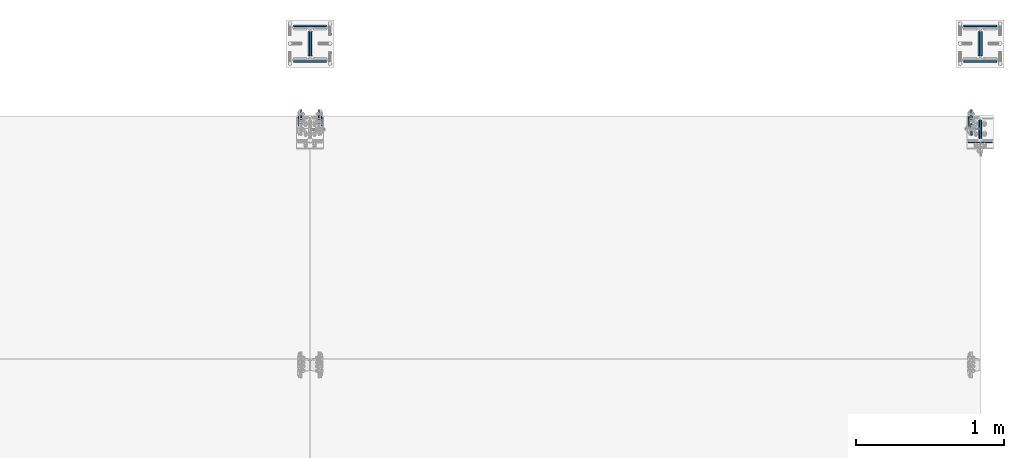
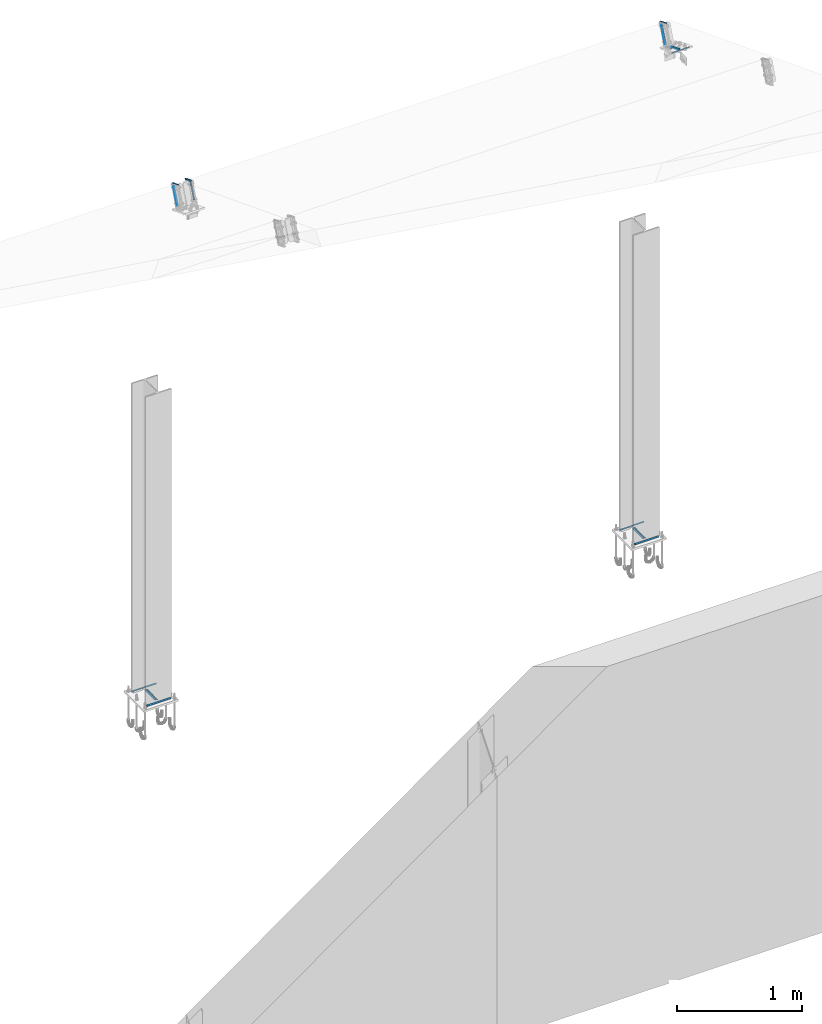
# One storey, part 20 of 72: 34 fasteners.
"""IFC4 building model written with IfcOpenShell, lengths in metres."""

from ifc_helpers import new_model, si_unit, frame, origin_with_axes, place, context, project, spatial, polyline, outline, extrude, type_object, element, save


model = new_model("IFC4")

# Units and contexts
model_context = context("Model", 3, precision=1e-05, world=origin_with_axes())
ifc_project = project(units=[si_unit("LENGTHUNIT", "METRE"), si_unit("AREAUNIT", "SQUARE_METRE"), si_unit("VOLUMEUNIT", "CUBIC_METRE"), si_unit("MASSUNIT", "GRAM", prefix="KILO"), si_unit("TIMEUNIT", "SECOND"), si_unit("PLANEANGLEUNIT", "RADIAN"), si_unit("SOLIDANGLEUNIT", "STERADIAN"), si_unit("THERMODYNAMICTEMPERATUREUNIT", "DEGREE_CELSIUS")], contexts=[model_context])

# Site, building, storey
placement_1 = place(None, origin_with_axes())
site = spatial("IfcSite", under=ifc_project, at=placement_1, Name="Italia", CompositionType="ELEMENT")
building = spatial("IfcBuilding", under=site, at=placement_1, Name="Uffici", CompositionType="ELEMENT")
storey = spatial("IfcBuildingStorey", under=building, at=placement_1, Name="Storey 0", CompositionType="ELEMENT", Elevation=0.0)

# Fasteners
fastener_type_1 = type_object("IfcFastenerType", Name="Collegamenti 0001_0101 0002_0102 0003_0103 0004_0104 0005_0105 0011_0111 0012_0112 0013_0113 0014_0114 0015_0115", PredefinedType="WELD")
placement_2 = place(placement_1, origin_with_axes())
fastener_1_placement = place(placement_2, origin_with_axes())
element("IfcFastener", 1, at=fastener_1_placement, inside=storey, type_object=fastener_type_1, Name="Collegamenti 0001_0101 0002_0102 0003_0103 0004_0104 0005_0105 0011_0111 0012_0112 0013_0113 0014_0114 0015_0115", context=model_context, shape_type="SweptSolid", body=[
    extrude(outline(polyline([(0.0, 0.0), (0.00986814, 0.0101734), (0.00986814, 0.0), (0.0, 0.0)])), frame((9.56505, 5.51482, 0.01995), z_axis=(-1.0, 0.0, 0.0), x_axis=(0.0, -1.0, 0.0)), (0.0, 0.0, 1.0), 0.2201),
])
fastener_type_2 = type_object("IfcFastenerType", Name="Collegamenti 0001_0101 0002_0102 0003_0103 0004_0104 0005_0105 0011_0111 0012_0112 0013_0113 0014_0114 0015_0115", PredefinedType="WELD")
fastener_2_placement = place(placement_2, origin_with_axes())
element("IfcFastener", 2, at=fastener_2_placement, inside=storey, type_object=fastener_type_2, Name="Collegamenti 0001_0101 0002_0102 0003_0103 0004_0104 0005_0105 0011_0111 0012_0112 0013_0113 0014_0114 0015_0115", context=model_context, shape_type="SweptSolid", body=[
    extrude(outline(polyline([(0.0, 0.0), (0.00986814, 0.0101734), (0.00986814, 0.0), (0.0, 0.0)])), frame((9.34495, 5.26518, 0.01995), z_axis=(1.0, 0.0, 0.0), x_axis=(0.0, 1.0, 0.0)), (0.0, 0.0, 1.0), 0.2201),
])
fastener_type_3 = type_object("IfcFastenerType", Name="Collegamenti 0001_0101 0002_0102 0003_0103 0004_0104 0005_0105 0011_0111 0012_0112 0013_0113 0014_0114 0015_0115", PredefinedType="WELD")
fastener_3_placement = place(placement_2, origin_with_axes())
element("IfcFastener", 3, at=fastener_3_placement, inside=storey, type_object=fastener_type_3, Name="Collegamenti 0001_0101 0002_0102 0003_0103 0004_0104 0005_0105 0011_0111 0012_0112 0013_0113 0014_0114 0015_0115", context=model_context, shape_type="SweptSolid", body=[
    extrude(outline(polyline([(0.0, 0.0), (0.00986767, 0.0101734), (0.00986767, 0.0), (0.0, 0.0)])), frame((9.46857, 5.30795, 0.01995), z_axis=(0.0, 1.0, 0.0), x_axis=(-1.0, 0.0, 0.0)), (0.0, 0.0, 1.0), 0.1641),
])
fastener_type_4 = type_object("IfcFastenerType", Name="Collegamenti 0001_0101 0002_0102 0003_0103 0004_0104 0005_0105 0011_0111 0012_0112 0013_0113 0014_0114 0015_0115", PredefinedType="WELD")
fastener_4_placement = place(placement_2, origin_with_axes())
element("IfcFastener", 4, at=fastener_4_placement, inside=storey, type_object=fastener_type_4, Name="Collegamenti 0001_0101 0002_0102 0003_0103 0004_0104 0005_0105 0011_0111 0012_0112 0013_0113 0014_0114 0015_0115", context=model_context, shape_type="SweptSolid", body=[
    extrude(outline(polyline([(0.0, 0.0), (0.00986767, 0.0101734), (0.00986767, 0.0), (0.0, 0.0)])), frame((9.44143, 5.47205, 0.01995), z_axis=(0.0, -1.0, 0.0), x_axis=(1.0, 0.0, 0.0)), (0.0, 0.0, 1.0), 0.1641),
])
fastener_type_5 = type_object("IfcFastenerType", Name="Collegamenti 0001_0101 0002_0102 0003_0103 0004_0104 0005_0105 0011_0111 0012_0112 0013_0113 0014_0114 0015_0115", PredefinedType="WELD")
fastener_5_placement = place(placement_2, origin_with_axes())
element("IfcFastener", 5, at=fastener_5_placement, inside=storey, type_object=fastener_type_5, Name="Collegamenti 0001_0101 0002_0102 0003_0103 0004_0104 0005_0105 0011_0111 0012_0112 0013_0113 0014_0114 0015_0115", context=model_context, shape_type="SweptSolid", body=[
    extrude(outline(polyline([(0.0, 0.0), (0.00986814, 0.0101734), (0.00986814, 0.0), (0.0, 0.0)])), frame((9.56505, 5.51482, 0.01995), z_axis=(-1.0, 0.0, 0.0), x_axis=(0.0, -1.0, 0.0)), (0.0, 0.0, 1.0), 0.2201),
])
fastener_type_6 = type_object("IfcFastenerType", Name="Collegamenti 0001_0101 0002_0102 0003_0103 0004_0104 0005_0105 0011_0111 0012_0112 0013_0113 0014_0114 0015_0115", PredefinedType="WELD")
fastener_6_placement = place(placement_2, origin_with_axes())
element("IfcFastener", 6, at=fastener_6_placement, inside=storey, type_object=fastener_type_6, Name="Collegamenti 0001_0101 0002_0102 0003_0103 0004_0104 0005_0105 0011_0111 0012_0112 0013_0113 0014_0114 0015_0115", context=model_context, shape_type="SweptSolid", body=[
    extrude(outline(polyline([(0.0, 0.0), (0.00986814, 0.0101734), (0.00986814, 0.0), (0.0, 0.0)])), frame((9.34495, 5.26518, 0.01995), z_axis=(1.0, 0.0, 0.0), x_axis=(0.0, 1.0, 0.0)), (0.0, 0.0, 1.0), 0.2201),
])
fastener_type_7 = type_object("IfcFastenerType", Name="Collegamenti 0001_0101 0002_0102 0003_0103 0004_0104 0005_0105 0011_0111 0012_0112 0013_0113 0014_0114 0015_0115", PredefinedType="WELD")
fastener_7_placement = place(placement_2, origin_with_axes())
element("IfcFastener", 7, at=fastener_7_placement, inside=storey, type_object=fastener_type_7, Name="Collegamenti 0001_0101 0002_0102 0003_0103 0004_0104 0005_0105 0011_0111 0012_0112 0013_0113 0014_0114 0015_0115", context=model_context, shape_type="SweptSolid", body=[
    extrude(outline(polyline([(0.0, 0.0), (0.00986767, 0.0101734), (0.00986767, 0.0), (0.0, 0.0)])), frame((9.46857, 5.30795, 0.01995), z_axis=(0.0, 1.0, 0.0), x_axis=(-1.0, 0.0, 0.0)), (0.0, 0.0, 1.0), 0.1641),
])
fastener_type_8 = type_object("IfcFastenerType", Name="Collegamenti 0001_0101 0002_0102 0003_0103 0004_0104 0005_0105 0011_0111 0012_0112 0013_0113 0014_0114 0015_0115", PredefinedType="WELD")
fastener_8_placement = place(placement_2, origin_with_axes())
element("IfcFastener", 8, at=fastener_8_placement, inside=storey, type_object=fastener_type_8, Name="Collegamenti 0001_0101 0002_0102 0003_0103 0004_0104 0005_0105 0011_0111 0012_0112 0013_0113 0014_0114 0015_0115", context=model_context, shape_type="SweptSolid", body=[
    extrude(outline(polyline([(0.0, 0.0), (0.00986767, 0.0101734), (0.00986767, 0.0), (0.0, 0.0)])), frame((9.44143, 5.47205, 0.01995), z_axis=(0.0, -1.0, 0.0), x_axis=(1.0, 0.0, 0.0)), (0.0, 0.0, 1.0), 0.1641),
])
fastener_type_9 = type_object("IfcFastenerType", Name="Collegamenti 0001_0101 0002_0102 0003_0103 0004_0104 0005_0105 0011_0111 0012_0112 0013_0113 0014_0114 0015_0115", PredefinedType="WELD")
fastener_9_placement = place(placement_2, origin_with_axes())
element("IfcFastener", 9, at=fastener_9_placement, inside=storey, type_object=fastener_type_9, Name="Collegamenti 0001_0101 0002_0102 0003_0103 0004_0104 0005_0105 0011_0111 0012_0112 0013_0113 0014_0114 0015_0115", context=model_context, shape_type="SweptSolid", body=[
    extrude(outline(polyline([(0.0, 0.0), (0.00986814, 0.0101734), (0.00986814, 0.0), (0.0, 0.0)])), frame((14.0801, 5.51482, 0.01995), z_axis=(-1.0, 0.0, 0.0), x_axis=(0.0, -1.0, 0.0)), (0.0, 0.0, 1.0), 0.2201),
])
fastener_type_10 = type_object("IfcFastenerType", Name="Collegamenti 0001_0101 0002_0102 0003_0103 0004_0104 0005_0105 0011_0111 0012_0112 0013_0113 0014_0114 0015_0115", PredefinedType="WELD")
fastener_10_placement = place(placement_2, origin_with_axes())
element("IfcFastener", 10, at=fastener_10_placement, inside=storey, type_object=fastener_type_10, Name="Collegamenti 0001_0101 0002_0102 0003_0103 0004_0104 0005_0105 0011_0111 0012_0112 0013_0113 0014_0114 0015_0115", context=model_context, shape_type="SweptSolid", body=[
    extrude(outline(polyline([(0.0, 0.0), (0.00986814, 0.0101734), (0.00986814, 0.0), (0.0, 0.0)])), frame((13.86, 5.26518, 0.01995), z_axis=(1.0, 0.0, 0.0), x_axis=(0.0, 1.0, 0.0)), (0.0, 0.0, 1.0), 0.2201),
])
fastener_type_11 = type_object("IfcFastenerType", Name="Collegamenti 0001_0101 0002_0102 0003_0103 0004_0104 0005_0105 0011_0111 0012_0112 0013_0113 0014_0114 0015_0115", PredefinedType="WELD")
fastener_11_placement = place(placement_2, origin_with_axes())
element("IfcFastener", 11, at=fastener_11_placement, inside=storey, type_object=fastener_type_11, Name="Collegamenti 0001_0101 0002_0102 0003_0103 0004_0104 0005_0105 0011_0111 0012_0112 0013_0113 0014_0114 0015_0115", context=model_context, shape_type="SweptSolid", body=[
    extrude(outline(polyline([(0.0, 0.0), (0.00986767, 0.0101734), (0.00986767, 0.0), (0.0, 0.0)])), frame((13.9836, 5.30795, 0.01995), z_axis=(0.0, 1.0, 0.0), x_axis=(-1.0, 0.0, 0.0)), (0.0, 0.0, 1.0), 0.1641),
])
fastener_type_12 = type_object("IfcFastenerType", Name="Collegamenti 0001_0101 0002_0102 0003_0103 0004_0104 0005_0105 0011_0111 0012_0112 0013_0113 0014_0114 0015_0115", PredefinedType="WELD")
fastener_12_placement = place(placement_2, origin_with_axes())
element("IfcFastener", 12, at=fastener_12_placement, inside=storey, type_object=fastener_type_12, Name="Collegamenti 0001_0101 0002_0102 0003_0103 0004_0104 0005_0105 0011_0111 0012_0112 0013_0113 0014_0114 0015_0115", context=model_context, shape_type="SweptSolid", body=[
    extrude(outline(polyline([(0.0, 0.0), (0.00986767, 0.0101734), (0.00986767, 0.0), (0.0, 0.0)])), frame((13.9564, 5.47205, 0.01995), z_axis=(0.0, -1.0, 0.0), x_axis=(1.0, 0.0, 0.0)), (0.0, 0.0, 1.0), 0.1641),
])
fastener_type_13 = type_object("IfcFastenerType", Name="Collegamenti 0001_0101 0002_0102 0003_0103 0004_0104 0005_0105 0011_0111 0012_0112 0013_0113 0014_0114 0015_0115", PredefinedType="WELD")
fastener_13_placement = place(placement_2, origin_with_axes())
element("IfcFastener", 13, at=fastener_13_placement, inside=storey, type_object=fastener_type_13, Name="Collegamenti 0001_0101 0002_0102 0003_0103 0004_0104 0005_0105 0011_0111 0012_0112 0013_0113 0014_0114 0015_0115", context=model_context, shape_type="SweptSolid", body=[
    extrude(outline(polyline([(0.0, 0.0), (0.00986814, 0.0101734), (0.00986814, 0.0), (0.0, 0.0)])), frame((14.0801, 5.51482, 0.01995), z_axis=(-1.0, 0.0, 0.0), x_axis=(0.0, -1.0, 0.0)), (0.0, 0.0, 1.0), 0.2201),
])
fastener_type_14 = type_object("IfcFastenerType", Name="Collegamenti 0001_0101 0002_0102 0003_0103 0004_0104 0005_0105 0011_0111 0012_0112 0013_0113 0014_0114 0015_0115", PredefinedType="WELD")
fastener_14_placement = place(placement_2, origin_with_axes())
element("IfcFastener", 14, at=fastener_14_placement, inside=storey, type_object=fastener_type_14, Name="Collegamenti 0001_0101 0002_0102 0003_0103 0004_0104 0005_0105 0011_0111 0012_0112 0013_0113 0014_0114 0015_0115", context=model_context, shape_type="SweptSolid", body=[
    extrude(outline(polyline([(0.0, 0.0), (0.00986814, 0.0101734), (0.00986814, 0.0), (0.0, 0.0)])), frame((13.86, 5.26518, 0.01995), z_axis=(1.0, 0.0, 0.0), x_axis=(0.0, 1.0, 0.0)), (0.0, 0.0, 1.0), 0.2201),
])
fastener_type_15 = type_object("IfcFastenerType", Name="Collegamenti 0001_0101 0002_0102 0003_0103 0004_0104 0005_0105 0011_0111 0012_0112 0013_0113 0014_0114 0015_0115", PredefinedType="WELD")
fastener_15_placement = place(placement_2, origin_with_axes())
element("IfcFastener", 15, at=fastener_15_placement, inside=storey, type_object=fastener_type_15, Name="Collegamenti 0001_0101 0002_0102 0003_0103 0004_0104 0005_0105 0011_0111 0012_0112 0013_0113 0014_0114 0015_0115", context=model_context, shape_type="SweptSolid", body=[
    extrude(outline(polyline([(0.0, 0.0), (0.00986767, 0.0101734), (0.00986767, 0.0), (0.0, 0.0)])), frame((13.9836, 5.30795, 0.01995), z_axis=(0.0, 1.0, 0.0), x_axis=(-1.0, 0.0, 0.0)), (0.0, 0.0, 1.0), 0.1641),
])
fastener_type_16 = type_object("IfcFastenerType", Name="Collegamenti 0001_0101 0002_0102 0003_0103 0004_0104 0005_0105 0011_0111 0012_0112 0013_0113 0014_0114 0015_0115", PredefinedType="WELD")
fastener_16_placement = place(placement_2, origin_with_axes())
element("IfcFastener", 16, at=fastener_16_placement, inside=storey, type_object=fastener_type_16, Name="Collegamenti 0001_0101 0002_0102 0003_0103 0004_0104 0005_0105 0011_0111 0012_0112 0013_0113 0014_0114 0015_0115", context=model_context, shape_type="SweptSolid", body=[
    extrude(outline(polyline([(0.0, 0.0), (0.00986767, 0.0101734), (0.00986767, 0.0), (0.0, 0.0)])), frame((13.9564, 5.47205, 0.01995), z_axis=(0.0, -1.0, 0.0), x_axis=(1.0, 0.0, 0.0)), (0.0, 0.0, 1.0), 0.1641),
])
fastener_type_17 = type_object("IfcFastenerType", Name="Collegamento 0209_0208", PredefinedType="WELD")
fastener_17_placement = place(placement_2, origin_with_axes())
element("IfcFastener", 17, at=fastener_17_placement, inside=storey, type_object=fastener_type_17, Name="Collegamento 0209_0208", context=model_context, shape_type="SweptSolid", body=[
    extrude(outline(polyline([(0.0, 0.0), (-0.00717354, 0.00695801), (0.0, 0.00695801), (0.0, 0.0)])), frame((9.38005, 4.90166, 5.31742), z_axis=(0.0, -0.361460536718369, -0.932387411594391), x_axis=(1.0, 0.0, 0.0)), (0.0, 0.0, 1.0), 0.1591),
])
fastener_type_18 = type_object("IfcFastenerType", Name="Collegamento 0209_0208", PredefinedType="WELD")
fastener_18_placement = place(placement_2, origin_with_axes())
element("IfcFastener", 18, at=fastener_18_placement, inside=storey, type_object=fastener_type_18, Name="Collegamento 0209_0208", context=model_context, shape_type="SweptSolid", body=[
    extrude(outline(polyline([(0.0, 0.0), (-0.00717354, 0.00695801), (0.0, 0.00695801), (0.0, 0.0)])), frame((9.38005, 4.90166, 5.31742), z_axis=(0.0, -0.361460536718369, -0.932387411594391), x_axis=(1.0, 0.0, 0.0)), (0.0, 0.0, 1.0), 0.1591),
])
fastener_type_19 = type_object("IfcFastenerType", Name="Collegamento 0209_0208", PredefinedType="WELD")
fastener_19_placement = place(placement_2, origin_with_axes())
element("IfcFastener", 19, at=fastener_19_placement, inside=storey, type_object=fastener_type_19, Name="Collegamento 0209_0208", context=model_context, shape_type="SweptSolid", body=[
    extrude(outline(polyline([(0.0, 0.0), (-0.00937271, 0.00909233), (0.0, 0.00909233), (0.0, 0.0)])), frame((9.40005, 4.94344, 5.31359), z_axis=(0.0, -0.932387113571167, 0.361461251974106), x_axis=(1.0, 0.0, 0.0)), (0.0, 0.0, 1.0), 0.1001),
])
fastener_type_20 = type_object("IfcFastenerType", Name="Collegamento 0209_0210", PredefinedType="WELD")
fastener_20_placement = place(placement_2, origin_with_axes())
element("IfcFastener", 20, at=fastener_20_placement, inside=storey, type_object=fastener_type_20, Name="Collegamento 0209_0210", context=model_context, shape_type="SweptSolid", body=[
    extrude(outline(polyline([(0.0, 0.0), (-0.00717354, 0.00695801), (0.0, 0.00695801), (0.0, 0.0)])), frame((9.52995, 4.84415, 5.16908), z_axis=(0.0, 0.361460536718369, 0.932387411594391), x_axis=(-1.0, 0.0, 0.0)), (0.0, 0.0, 1.0), 0.1591),
])
fastener_type_21 = type_object("IfcFastenerType", Name="Collegamento 0209_0210", PredefinedType="WELD")
fastener_21_placement = place(placement_2, origin_with_axes())
element("IfcFastener", 21, at=fastener_21_placement, inside=storey, type_object=fastener_type_21, Name="Collegamento 0209_0210", context=model_context, shape_type="SweptSolid", body=[
    extrude(outline(polyline([(0.0, 0.0), (-0.00717354, 0.00695801), (0.0, 0.00695801), (0.0, 0.0)])), frame((9.52995, 4.84415, 5.16908), z_axis=(0.0, 0.361460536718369, 0.932387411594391), x_axis=(-1.0, 0.0, 0.0)), (0.0, 0.0, 1.0), 0.1591),
])
fastener_type_22 = type_object("IfcFastenerType", Name="Collegamento 0209_0210", PredefinedType="WELD")
fastener_22_placement = place(placement_2, origin_with_axes())
element("IfcFastener", 22, at=fastener_22_placement, inside=storey, type_object=fastener_type_22, Name="Collegamento 0209_0210", context=model_context, shape_type="SweptSolid", body=[
    extrude(outline(polyline([(0.0, 0.0), (-0.00937271, 0.00909281), (0.0, 0.00909281), (0.0, 0.0)])), frame((9.50995, 4.85011, 5.34978), z_axis=(0.0, 0.932387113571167, -0.361461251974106), x_axis=(-1.0, 0.0, 0.0)), (0.0, 0.0, 1.0), 0.1001),
])
fastener_type_23 = type_object("IfcFastenerType", Name="Collegamento 0210_0110", PredefinedType="WELD")
fastener_23_placement = place(placement_2, origin_with_axes())
element("IfcFastener", 23, at=fastener_23_placement, inside=storey, type_object=fastener_type_23, Name="Collegamento 0210_0110", context=model_context, shape_type="SweptSolid", body=[
    extrude(outline(polyline([(0.0, 0.0), (-0.00443697, -0.0104866), (-0.00739193, -0.00286579), (0.0, 0.0)])), frame((14.0521, 4.72167, 5.15715), z_axis=(-1.0, 0.0, 2.905760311e-06), x_axis=(0.0, -1.0, 0.0)), (0.0, 0.0, 1.0), 0.164101),
])
fastener_type_24 = type_object("IfcFastenerType", Name="Collegamento 0210_0110", PredefinedType="WELD")
fastener_24_placement = place(placement_2, origin_with_axes())
element("IfcFastener", 24, at=fastener_24_placement, inside=storey, type_object=fastener_type_24, Name="Collegamento 0210_0110", context=model_context, shape_type="SweptSolid", body=[
    extrude(outline(polyline([(0.0, 0.0), (-0.00792789, -0.00817394), (-0.00792789, 0.0), (0.0, 0.0)])), frame((13.9809, 4.87658, 5.09709), z_axis=(0.0, -0.932361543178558, 0.36152720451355), x_axis=(1.0, 0.0, 0.0)), (0.0, 0.0, 1.0), 0.133127),
])
fastener_type_25 = type_object("IfcFastenerType", Name="Collegamento 0210_0110", PredefinedType="WELD")
fastener_25_placement = place(placement_2, origin_with_axes())
element("IfcFastener", 25, at=fastener_25_placement, inside=storey, type_object=fastener_type_25, Name="Collegamento 0210_0110", context=model_context, shape_type="SweptSolid", body=[
    extrude(outline(polyline([(0.0, 0.0), (-0.00792789, -0.00817347), (-0.00792789, 0.0), (0.0, 0.0)])), frame((13.9591, 4.75246, 5.14522), z_axis=(0.0, 0.932361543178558, -0.36152720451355), x_axis=(-1.0, 0.0, 0.0)), (0.0, 0.0, 1.0), 0.133127),
])
fastener_type_26 = type_object("IfcFastenerType", Name="Collegamento 0210_0110", PredefinedType="WELD")
fastener_26_placement = place(placement_2, origin_with_axes())
element("IfcFastener", 26, at=fastener_26_placement, inside=storey, type_object=fastener_type_26, Name="Collegamento 0210_0110", context=model_context, shape_type="SweptSolid", body=[
    extrude(outline(polyline([(0.0, 0.0), (-0.00443697, -0.0104866), (-0.00739193, -0.00286579), (0.0, 0.0)])), frame((14.0521, 4.72167, 5.15715), z_axis=(-1.0, 0.0, 2.905760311e-06), x_axis=(0.0, -1.0, 0.0)), (0.0, 0.0, 1.0), 0.164101),
])
fastener_type_27 = type_object("IfcFastenerType", Name="Collegamento 0210_0110", PredefinedType="WELD")
fastener_27_placement = place(placement_2, origin_with_axes())
element("IfcFastener", 27, at=fastener_27_placement, inside=storey, type_object=fastener_type_27, Name="Collegamento 0210_0110", context=model_context, shape_type="SweptSolid", body=[
    extrude(outline(polyline([(0.0, 0.0), (-0.00792789, -0.00817394), (-0.00792789, 0.0), (0.0, 0.0)])), frame((13.9809, 4.87658, 5.09709), z_axis=(0.0, -0.932361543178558, 0.36152720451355), x_axis=(1.0, 0.0, 0.0)), (0.0, 0.0, 1.0), 0.133127),
])
fastener_type_28 = type_object("IfcFastenerType", Name="Collegamento 0210_0110", PredefinedType="WELD")
fastener_28_placement = place(placement_2, origin_with_axes())
element("IfcFastener", 28, at=fastener_28_placement, inside=storey, type_object=fastener_type_28, Name="Collegamento 0210_0110", context=model_context, shape_type="SweptSolid", body=[
    extrude(outline(polyline([(0.0, 0.0), (-0.00792789, -0.00817347), (-0.00792789, 0.0), (0.0, 0.0)])), frame((13.9591, 4.75246, 5.14522), z_axis=(0.0, 0.932361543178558, -0.36152720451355), x_axis=(-1.0, 0.0, 0.0)), (0.0, 0.0, 1.0), 0.133127),
])
fastener_type_29 = type_object("IfcFastenerType", Name="Collegamento 0210_0209", PredefinedType="WELD")
fastener_29_placement = place(placement_2, origin_with_axes())
element("IfcFastener", 29, at=fastener_29_placement, inside=storey, type_object=fastener_type_29, Name="Collegamento 0210_0209", context=model_context, shape_type="SweptSolid", body=[
    extrude(outline(polyline([(0.0, 0.0), (-0.00717354, 0.00695801), (0.0, 0.00695801), (0.0, 0.0)])), frame((13.8951, 4.90166, 5.31742), z_axis=(0.0, -0.361460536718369, -0.932387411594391), x_axis=(1.0, 0.0, 0.0)), (0.0, 0.0, 1.0), 0.1591),
])
fastener_type_30 = type_object("IfcFastenerType", Name="Collegamento 0210_0209", PredefinedType="WELD")
fastener_30_placement = place(placement_2, origin_with_axes())
element("IfcFastener", 30, at=fastener_30_placement, inside=storey, type_object=fastener_type_30, Name="Collegamento 0210_0209", context=model_context, shape_type="SweptSolid", body=[
    extrude(outline(polyline([(0.0, 0.0), (0.00717354, -0.00695848), (0.0, -0.00695848), (0.0, 0.0)])), frame((13.8951, 4.82605, 5.1761), z_axis=(0.0, 0.361463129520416, 0.93238639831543), x_axis=(-1.0, 0.0, 0.0)), (0.0, 0.0, 1.0), 0.1591),
])
fastener_type_31 = type_object("IfcFastenerType", Name="Collegamento 0210_0209", PredefinedType="WELD")
fastener_31_placement = place(placement_2, origin_with_axes())
element("IfcFastener", 31, at=fastener_31_placement, inside=storey, type_object=fastener_type_31, Name="Collegamento 0210_0209", context=model_context, shape_type="SweptSolid", body=[
    extrude(outline(polyline([(0.0, 0.0), (-0.00717354, 0.00695801), (0.0, 0.00695801), (0.0, 0.0)])), frame((13.8951, 4.90166, 5.31742), z_axis=(0.0, -0.361460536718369, -0.932387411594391), x_axis=(1.0, 0.0, 0.0)), (0.0, 0.0, 1.0), 0.1591),
])
fastener_type_32 = type_object("IfcFastenerType", Name="Collegamento 0210_0209", PredefinedType="WELD")
fastener_32_placement = place(placement_2, origin_with_axes())
element("IfcFastener", 32, at=fastener_32_placement, inside=storey, type_object=fastener_type_32, Name="Collegamento 0210_0209", context=model_context, shape_type="SweptSolid", body=[
    extrude(outline(polyline([(0.0, 0.0), (0.00717354, -0.00695848), (0.0, -0.00695848), (0.0, 0.0)])), frame((13.8951, 4.82605, 5.1761), z_axis=(0.0, 0.361463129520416, 0.93238639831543), x_axis=(-1.0, 0.0, 0.0)), (0.0, 0.0, 1.0), 0.1591),
])
fastener_type_33 = type_object("IfcFastenerType", Name="Collegamento 0210_0209", PredefinedType="WELD")
fastener_33_placement = place(placement_2, origin_with_axes())
element("IfcFastener", 33, at=fastener_33_placement, inside=storey, type_object=fastener_type_33, Name="Collegamento 0210_0209", context=model_context, shape_type="SweptSolid", body=[
    extrude(outline(polyline([(0.0, 0.0), (0.00937271, -0.00909185), (0.0, -0.00909185), (0.0, 0.0)])), frame((13.9151, 4.77713, 5.16151), z_axis=(0.0, 0.932387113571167, -0.361461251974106), x_axis=(-1.0, 0.0, 0.0)), (0.0, 0.0, 1.0), 0.1001),
])
fastener_type_34 = type_object("IfcFastenerType", Name="Collegamento 0210_0209", PredefinedType="WELD")
fastener_34_placement = place(placement_2, origin_with_axes())
element("IfcFastener", 34, at=fastener_34_placement, inside=storey, type_object=fastener_type_34, Name="Collegamento 0210_0209", context=model_context, shape_type="SweptSolid", body=[
    extrude(outline(polyline([(0.0, 0.0), (-0.00937271, 0.00909233), (0.0, 0.00909233), (0.0, 0.0)])), frame((13.9151, 4.94344, 5.31359), z_axis=(0.0, -0.932387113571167, 0.361461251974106), x_axis=(1.0, 0.0, 0.0)), (0.0, 0.0, 1.0), 0.1001),
])

save(model, "model.ifc")
